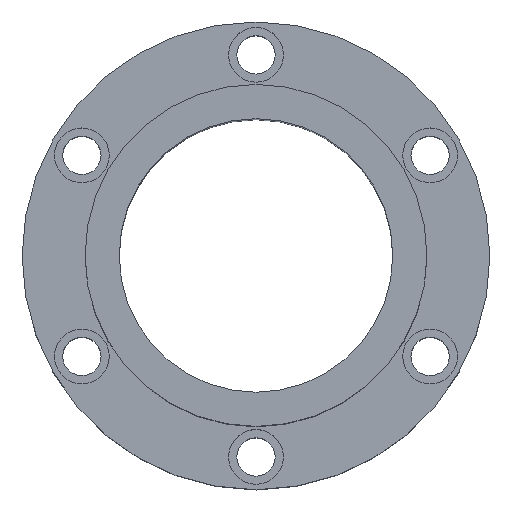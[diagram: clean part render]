
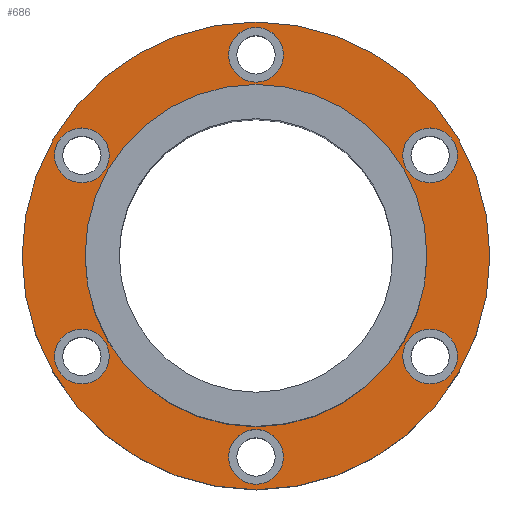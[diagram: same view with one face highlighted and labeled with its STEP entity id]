
A CAD part, top view. The second image highlights one B-rep face of the part: STEP entity #686.
In plain terms, the highlighted planar face has unit normal (0, 0, 1).
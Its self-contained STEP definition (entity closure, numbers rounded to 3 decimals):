
#1=CARTESIAN_POINT('',(0.,0.,26.5));
#2=DIRECTION('',(0.,0.,1.));
#3=DIRECTION('',(1.,0.,0.));
#4=AXIS2_PLACEMENT_3D('',#1,#2,#3);
#6=CARTESIAN_POINT('',(0.,0.,26.5));
#7=DIRECTION('',(0.,0.,1.));
#8=DIRECTION('',(-1.,0.,0.));
#9=AXIS2_PLACEMENT_3D('',#6,#7,#8);
#11=CARTESIAN_POINT('',(63.653,-36.75,26.5));
#12=DIRECTION('',(0.,0.,-1.));
#13=DIRECTION('',(-0.5,-0.866,0.));
#14=AXIS2_PLACEMENT_3D('',#11,#12,#13);
#16=CARTESIAN_POINT('',(63.653,-36.75,26.5));
#17=DIRECTION('',(0.,0.,-1.));
#18=DIRECTION('',(0.5,0.866,0.));
#19=AXIS2_PLACEMENT_3D('',#16,#17,#18);
#21=CARTESIAN_POINT('',(-63.653,-36.75,26.5));
#22=DIRECTION('',(0.,0.,-1.));
#23=DIRECTION('',(-0.5,0.866,0.));
#24=AXIS2_PLACEMENT_3D('',#21,#22,#23);
#26=CARTESIAN_POINT('',(-63.653,-36.75,26.5));
#27=DIRECTION('',(0.,0.,-1.));
#28=DIRECTION('',(0.5,-0.866,0.));
#29=AXIS2_PLACEMENT_3D('',#26,#27,#28);
#31=CARTESIAN_POINT('',(0.,73.5,26.5));
#32=DIRECTION('',(0.,0.,-1.));
#33=DIRECTION('',(1.,0.,0.));
#34=AXIS2_PLACEMENT_3D('',#31,#32,#33);
#36=CARTESIAN_POINT('',(0.,73.5,26.5));
#37=DIRECTION('',(0.,0.,-1.));
#38=DIRECTION('',(-1.,0.,0.));
#39=AXIS2_PLACEMENT_3D('',#36,#37,#38);
#41=CARTESIAN_POINT('',(0.,0.,26.5));
#42=DIRECTION('',(0.,0.,-1.));
#43=DIRECTION('',(1.,0.,0.));
#44=AXIS2_PLACEMENT_3D('',#41,#42,#43);
#46=CARTESIAN_POINT('',(0.,0.,26.5));
#47=DIRECTION('',(0.,0.,-1.));
#48=DIRECTION('',(-1.,0.,0.));
#49=AXIS2_PLACEMENT_3D('',#46,#47,#48);
#51=CARTESIAN_POINT('',(-63.653,36.75,26.5));
#52=DIRECTION('',(0.,0.,-1.));
#53=DIRECTION('',(0.5,0.866,0.));
#54=AXIS2_PLACEMENT_3D('',#51,#52,#53);
#56=CARTESIAN_POINT('',(-63.653,36.75,26.5));
#57=DIRECTION('',(0.,0.,-1.));
#58=DIRECTION('',(-0.5,-0.866,0.));
#59=AXIS2_PLACEMENT_3D('',#56,#57,#58);
#61=CARTESIAN_POINT('',(0.,-73.5,26.5));
#62=DIRECTION('',(0.,0.,-1.));
#63=DIRECTION('',(-1.,0.,0.));
#64=AXIS2_PLACEMENT_3D('',#61,#62,#63);
#66=CARTESIAN_POINT('',(0.,-73.5,26.5));
#67=DIRECTION('',(0.,0.,-1.));
#68=DIRECTION('',(1.,0.,0.));
#69=AXIS2_PLACEMENT_3D('',#66,#67,#68);
#71=CARTESIAN_POINT('',(63.653,36.75,26.5));
#72=DIRECTION('',(0.,0.,-1.));
#73=DIRECTION('',(0.5,-0.866,0.));
#74=AXIS2_PLACEMENT_3D('',#71,#72,#73);
#76=CARTESIAN_POINT('',(63.653,36.75,26.5));
#77=DIRECTION('',(0.,0.,-1.));
#78=DIRECTION('',(-0.5,0.866,0.));
#79=AXIS2_PLACEMENT_3D('',#76,#77,#78);
#561=CARTESIAN_POINT('',(-85.5,0.,26.5));
#563=VERTEX_POINT('',#561);
#565=CARTESIAN_POINT('',(85.5,0.,26.5));
#567=VERTEX_POINT('',#565);
#569=CARTESIAN_POINT('',(10.,73.5,26.5));
#571=VERTEX_POINT('',#569);
#573=CARTESIAN_POINT('',(-10.,73.5,26.5));
#575=VERTEX_POINT('',#573);
#577=CARTESIAN_POINT('',(-58.653,45.41,26.5));
#579=VERTEX_POINT('',#577);
#581=CARTESIAN_POINT('',(-68.653,28.09,26.5));
#583=VERTEX_POINT('',#581);
#585=CARTESIAN_POINT('',(-68.653,-28.09,26.5));
#587=VERTEX_POINT('',#585);
#589=CARTESIAN_POINT('',(-58.653,-45.41,26.5));
#591=VERTEX_POINT('',#589);
#593=CARTESIAN_POINT('',(-10.,-73.5,26.5));
#595=VERTEX_POINT('',#593);
#597=CARTESIAN_POINT('',(10.,-73.5,26.5));
#599=VERTEX_POINT('',#597);
#601=CARTESIAN_POINT('',(58.653,-45.41,26.5));
#603=VERTEX_POINT('',#601);
#605=CARTESIAN_POINT('',(68.653,-28.09,26.5));
#607=VERTEX_POINT('',#605);
#609=CARTESIAN_POINT('',(68.653,28.09,26.5));
#611=VERTEX_POINT('',#609);
#613=CARTESIAN_POINT('',(58.653,45.41,26.5));
#615=VERTEX_POINT('',#613);
#626=CARTESIAN_POINT('',(62.5,0.,26.5));
#628=VERTEX_POINT('',#626);
#630=CARTESIAN_POINT('',(-62.5,0.,26.5));
#632=VERTEX_POINT('',#630);
#633=CARTESIAN_POINT('',(0.,0.,26.5));
#634=DIRECTION('',(0.,0.,1.));
#635=DIRECTION('',(1.,0.,0.));
#636=AXIS2_PLACEMENT_3D('',#633,#634,#635);
#637=PLANE('',#636);
#639=ORIENTED_EDGE('',*,*,#638,.F.);
#641=ORIENTED_EDGE('',*,*,#640,.F.);
#642=EDGE_LOOP('',(#639,#641));
#643=FACE_OUTER_BOUND('',#642,.F.);
#645=ORIENTED_EDGE('',*,*,#644,.F.);
#647=ORIENTED_EDGE('',*,*,#646,.F.);
#648=EDGE_LOOP('',(#645,#647));
#649=FACE_BOUND('',#648,.F.);
#651=ORIENTED_EDGE('',*,*,#650,.F.);
#653=ORIENTED_EDGE('',*,*,#652,.F.);
#654=EDGE_LOOP('',(#651,#653));
#655=FACE_BOUND('',#654,.F.);
#657=ORIENTED_EDGE('',*,*,#656,.F.);
#659=ORIENTED_EDGE('',*,*,#658,.F.);
#660=EDGE_LOOP('',(#657,#659));
#661=FACE_BOUND('',#660,.F.);
#663=ORIENTED_EDGE('',*,*,#662,.F.);
#665=ORIENTED_EDGE('',*,*,#664,.F.);
#666=EDGE_LOOP('',(#663,#665));
#667=FACE_BOUND('',#666,.F.);
#669=ORIENTED_EDGE('',*,*,#668,.F.);
#671=ORIENTED_EDGE('',*,*,#670,.F.);
#672=EDGE_LOOP('',(#669,#671));
#673=FACE_BOUND('',#672,.F.);
#675=ORIENTED_EDGE('',*,*,#674,.F.);
#677=ORIENTED_EDGE('',*,*,#676,.F.);
#678=EDGE_LOOP('',(#675,#677));
#679=FACE_BOUND('',#678,.F.);
#681=ORIENTED_EDGE('',*,*,#680,.F.);
#683=ORIENTED_EDGE('',*,*,#682,.F.);
#684=EDGE_LOOP('',(#681,#683));
#685=FACE_BOUND('',#684,.F.);
#686=ADVANCED_FACE('',(#643,#649,#655,#661,#667,#673,#679,#685),#637,.T.);
#5=CIRCLE('',#4,85.5);
#10=CIRCLE('',#9,85.5);
#15=CIRCLE('',#14,10.);
#20=CIRCLE('',#19,10.);
#25=CIRCLE('',#24,10.);
#30=CIRCLE('',#29,10.);
#35=CIRCLE('',#34,10.);
#40=CIRCLE('',#39,10.);
#45=CIRCLE('',#44,62.5);
#50=CIRCLE('',#49,62.5);
#55=CIRCLE('',#54,10.);
#60=CIRCLE('',#59,10.);
#65=CIRCLE('',#64,10.);
#70=CIRCLE('',#69,10.);
#75=CIRCLE('',#74,10.);
#80=CIRCLE('',#79,10.);
#638=EDGE_CURVE('',#567,#563,#5,.T.);
#640=EDGE_CURVE('',#563,#567,#10,.T.);
#644=EDGE_CURVE('',#603,#607,#15,.T.);
#646=EDGE_CURVE('',#607,#603,#20,.T.);
#650=EDGE_CURVE('',#587,#591,#25,.T.);
#652=EDGE_CURVE('',#591,#587,#30,.T.);
#656=EDGE_CURVE('',#571,#575,#35,.T.);
#658=EDGE_CURVE('',#575,#571,#40,.T.);
#662=EDGE_CURVE('',#628,#632,#45,.T.);
#664=EDGE_CURVE('',#632,#628,#50,.T.);
#668=EDGE_CURVE('',#579,#583,#55,.T.);
#670=EDGE_CURVE('',#583,#579,#60,.T.);
#674=EDGE_CURVE('',#595,#599,#65,.T.);
#676=EDGE_CURVE('',#599,#595,#70,.T.);
#680=EDGE_CURVE('',#611,#615,#75,.T.);
#682=EDGE_CURVE('',#615,#611,#80,.T.);
